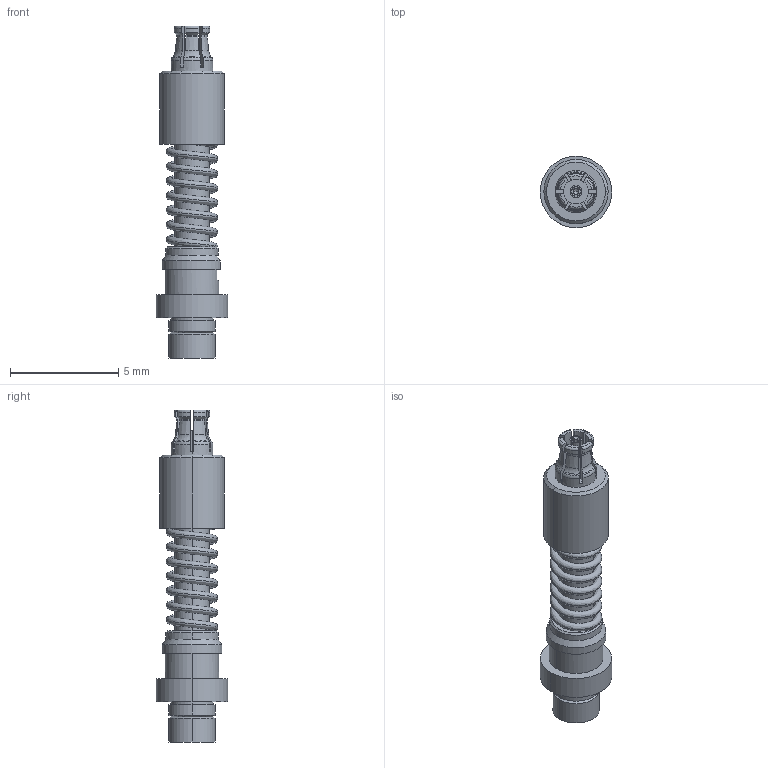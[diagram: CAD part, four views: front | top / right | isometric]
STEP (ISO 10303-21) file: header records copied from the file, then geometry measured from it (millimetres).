
FILE_DESCRIPTION (( 'STEP AP214' ), '1' );
FILE_NAME ('3821-40023.STEP', '2019-09-13T16:44:37', ( '' ), ( '' ), 'SwSTEP 2.0', 'SolidWorks 2018', '' );
FILE_SCHEMA (( 'AUTOMOTIVE_DESIGN' ));
Length unit declared in the file: inch
Products named in the file (1): 3821-40023
Bounding box: 3.3 x 3.3 x 15.34 mm (x, y, z)
Volume: 62.2 mm3; surface area: 225.8 mm2
Topology: 1 solids, 1 shells, 168 faces, 454 edges, 293 vertices
Faces by surface type: plane 61, cylinder 48, cone 39, torus 18, bspline 2
Entity records: 9464 total; most frequent: CARTESIAN_POINT 3080, ORIENTED_EDGE 904, DIRECTION 870, EDGE_CURVE 452, AXIS2_PLACEMENT_3D 349, VERTEX_POINT 293, CIRCLE 182, EDGE_LOOP 179
